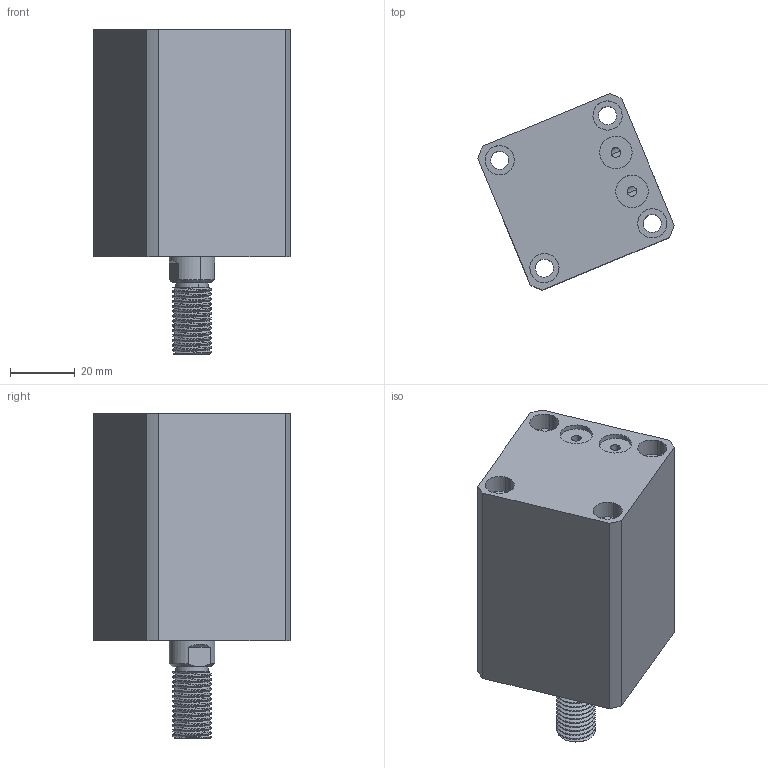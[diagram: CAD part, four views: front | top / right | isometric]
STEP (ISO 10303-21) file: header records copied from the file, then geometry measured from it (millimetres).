
FILE_DESCRIPTION (( 'STEP AP214' ), '1' );
FILE_NAME ('chtb-sdmb25x25w_asm.STEP', '2018-05-24T02:23:46', ( 'Windows' ), ( 'Microsoft' ), 'SwSTEP 2.0', 'SolidWorks 2015', '' );
FILE_SCHEMA (( 'AUTOMOTIVE_DESIGN' ));
Length unit declared in the file: millimetre
Products named in the file (4): CHTB-SDMB25X25WHSG; CHTB-SDMB25X25NBT; CHTB-25QG; chtb-sdmb25x25w_asm
Assembly tree (3 placements, depth 2):
  chtb-sdmb25x25w_asm
    CHTB-25QG
    CHTB-SDMB25X25NBT
    CHTB-SDMB25X25WHSG
Bounding box: 60.55 x 60.55 x 100 mm (x, y, z)
Volume: 144735.3 mm3; surface area: 40094.5 mm2
Topology: 3 solids, 3 shells, 176 faces, 476 edges, 323 vertices
Faces by surface type: cylinder 118, plane 37, bspline 12, cone 9
Entity records: 10721 total; most frequent: CARTESIAN_POINT 6406, ORIENTED_EDGE 944, DIRECTION 765, EDGE_CURVE 472, VERTEX_POINT 323, AXIS2_PLACEMENT_3D 310, EDGE_LOOP 215, FACE_OUTER_BOUND 176
